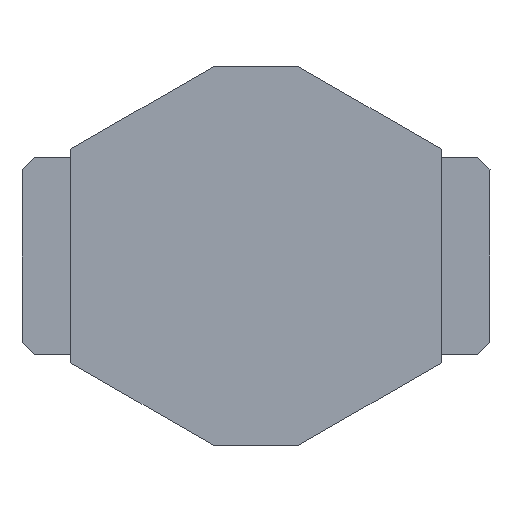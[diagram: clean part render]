
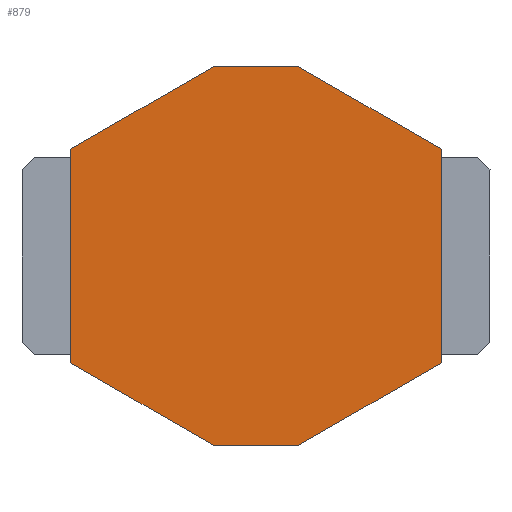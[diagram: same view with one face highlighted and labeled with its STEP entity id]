
A CAD part, front view. The second image highlights one B-rep face of the part: STEP entity #879.
In plain terms, the highlighted planar face has unit normal (0, -1, 0).
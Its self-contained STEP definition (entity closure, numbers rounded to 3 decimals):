
#46 = CARTESIAN_POINT ( 'NONE',  ( 1005., -33.25, 1763.301 ) ) ;
#67 = CARTESIAN_POINT ( 'NONE',  ( 1097.321, -33.25, 1796.603 ) ) ;
#68 = CARTESIAN_POINT ( 'NONE',  ( 1155., -33.25, 1676.699 ) ) ;
#103 = LINE ( 'NONE', #389, #789 ) ;
#119 = CARTESIAN_POINT ( 'NONE',  ( 1097.32, -33.25, 1643.397 ) ) ;
#123 = ORIENTED_EDGE ( 'NONE', *, *, #609, .T. ) ;
#142 = DIRECTION ( 'NONE',  ( 0.866, 0., 0.5 ) ) ;
#149 = DIRECTION ( 'NONE',  ( 1., 0., 0. ) ) ;
#244 = EDGE_CURVE ( 'NONE', #949, #451, #771, .T. ) ;
#257 = EDGE_LOOP ( 'NONE', ( #777, #1060, #1013, #123, #760, #695, #1089, #615 ) ) ;
#281 = CARTESIAN_POINT ( 'NONE',  ( 1062.679, -33.25, 1643.397 ) ) ;
#334 = DIRECTION ( 'NONE',  ( 1., 0., 0. ) ) ;
#336 = DIRECTION ( 'NONE',  ( 0., -1., 0. ) ) ;
#351 = CARTESIAN_POINT ( 'NONE',  ( 1005., -33.25, 1763.301 ) ) ;
#388 = DIRECTION ( 'NONE',  ( 0., 0., 1. ) ) ;
#389 = CARTESIAN_POINT ( 'NONE',  ( 1155., -33.25, 1763.301 ) ) ;
#392 = VERTEX_POINT ( 'NONE', #660 ) ;
#406 = PLANE ( 'NONE',  #1185 ) ;
#411 = DIRECTION ( 'NONE',  ( 0., 0., -1. ) ) ;
#415 = CARTESIAN_POINT ( 'NONE',  ( 1005., -33.25, 1676.699 ) ) ;
#445 = EDGE_CURVE ( 'NONE', #606, #949, #1016, .T. ) ;
#451 = VERTEX_POINT ( 'NONE', #727 ) ;
#492 = CARTESIAN_POINT ( 'NONE',  ( 1062.679, -33.25, 1643.397 ) ) ;
#501 = CARTESIAN_POINT ( 'NONE',  ( 1080., -33.25, 1633.397 ) ) ;
#597 = EDGE_CURVE ( 'NONE', #392, #851, #630, .T. ) ;
#606 = VERTEX_POINT ( 'NONE', #920 ) ;
#609 = EDGE_CURVE ( 'NONE', #851, #938, #775, .T. ) ;
#615 = ORIENTED_EDGE ( 'NONE', *, *, #244, .T. ) ;
#624 = EDGE_CURVE ( 'NONE', #938, #1171, #883, .T. ) ;
#630 = LINE ( 'NONE', #501, #674 ) ;
#657 = DIRECTION ( 'NONE',  ( -0.866, 0., -0.5 ) ) ;
#660 = CARTESIAN_POINT ( 'NONE',  ( 1005., -33.25, 1676.699 ) ) ;
#665 = CARTESIAN_POINT ( 'NONE',  ( 1005., -33.25, 1763.301 ) ) ;
#674 = VECTOR ( 'NONE', #676, 1000. ) ;
#675 = EDGE_CURVE ( 'NONE', #451, #996, #960, .T. ) ;
#676 = DIRECTION ( 'NONE',  ( 0.866, 0., -0.5 ) ) ;
#695 = ORIENTED_EDGE ( 'NONE', *, *, #869, .T. ) ;
#727 = CARTESIAN_POINT ( 'NONE',  ( 1062.68, -33.25, 1796.603 ) ) ;
#728 = DIRECTION ( 'NONE',  ( -0.866, 0., 0.5 ) ) ;
#748 = CARTESIAN_POINT ( 'NONE',  ( 1080., -33.25, 1806.603 ) ) ;
#749 = VECTOR ( 'NONE', #944, 1000. ) ;
#760 = ORIENTED_EDGE ( 'NONE', *, *, #624, .T. ) ;
#771 = LINE ( 'NONE', #980, #749 ) ;
#775 = LINE ( 'NONE', #281, #860 ) ;
#777 = ORIENTED_EDGE ( 'NONE', *, *, #675, .T. ) ;
#789 = VECTOR ( 'NONE', #388, 1000. ) ;
#851 = VERTEX_POINT ( 'NONE', #492 ) ;
#860 = VECTOR ( 'NONE', #149, 1000. ) ;
#867 = EDGE_CURVE ( 'NONE', #996, #392, #1076, .T. ) ;
#869 = EDGE_CURVE ( 'NONE', #1171, #606, #103, .T. ) ;
#879 = ADVANCED_FACE ( 'NONE', ( #973 ), #406, .T. ) ;
#883 = LINE ( 'NONE', #68, #910 ) ;
#910 = VECTOR ( 'NONE', #142, 1000. ) ;
#920 = CARTESIAN_POINT ( 'NONE',  ( 1155., -33.25, 1763.301 ) ) ;
#938 = VERTEX_POINT ( 'NONE', #119 ) ;
#944 = DIRECTION ( 'NONE',  ( -1., 0., 0. ) ) ;
#949 = VERTEX_POINT ( 'NONE', #67 ) ;
#960 = LINE ( 'NONE', #665, #1121 ) ;
#973 = FACE_OUTER_BOUND ( 'NONE', #257, .T. ) ;
#980 = CARTESIAN_POINT ( 'NONE',  ( 1097.321, -33.25, 1796.603 ) ) ;
#996 = VERTEX_POINT ( 'NONE', #46 ) ;
#1013 = ORIENTED_EDGE ( 'NONE', *, *, #597, .T. ) ;
#1016 = LINE ( 'NONE', #748, #1073 ) ;
#1060 = ORIENTED_EDGE ( 'NONE', *, *, #867, .T. ) ;
#1073 = VECTOR ( 'NONE', #728, 1000. ) ;
#1076 = LINE ( 'NONE', #415, #1159 ) ;
#1089 = ORIENTED_EDGE ( 'NONE', *, *, #445, .T. ) ;
#1121 = VECTOR ( 'NONE', #657, 1000. ) ;
#1159 = VECTOR ( 'NONE', #411, 1000. ) ;
#1170 = CARTESIAN_POINT ( 'NONE',  ( 1155., -33.25, 1676.699 ) ) ;
#1171 = VERTEX_POINT ( 'NONE', #1170 ) ;
#1185 = AXIS2_PLACEMENT_3D ( 'NONE', #351, #336, #334 ) ;
